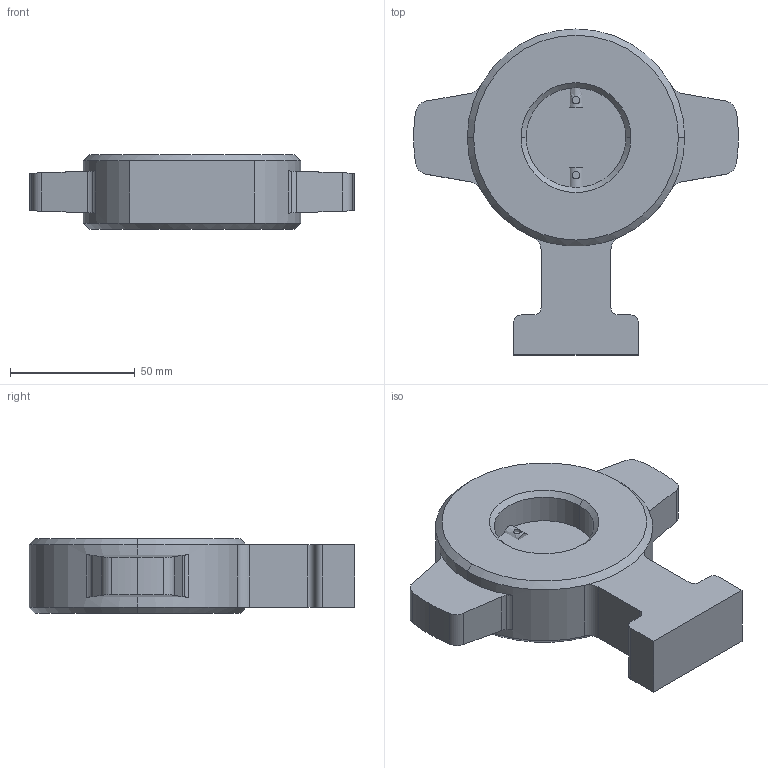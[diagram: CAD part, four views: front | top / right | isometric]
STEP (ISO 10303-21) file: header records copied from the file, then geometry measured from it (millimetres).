
FILE_DESCRIPTION((''),'2;1');
FILE_NAME('KL000001.dwg.stp','2006-10-04T11:29:39',(''),(''),'Mechanical Desktop 2006','Mechanical Desktop 2006',', , ');
FILE_SCHEMA(('AUTOMOTIVE_DESIGN { 1 2 10303 214 0 1 1 1 }'));
Length unit declared in the file: millimetre
Products named in the file (1): Product
Bounding box: 130 x 130.5 x 30 mm (x, y, z)
Volume: 204683.3 mm3; surface area: 33903.4 mm2
Topology: 4 solids, 4 shells, 70 faces, 174 edges, 112 vertices
Faces by surface type: cylinder 29, plane 18, bspline 17, cone 6
Entity records: 2481 total; most frequent: CARTESIAN_POINT 748, DIRECTION 358, ORIENTED_EDGE 348, EDGE_CURVE 174, AXIS2_PLACEMENT_3D 138, VERTEX_POINT 112, VECTOR 82, LINE 82
